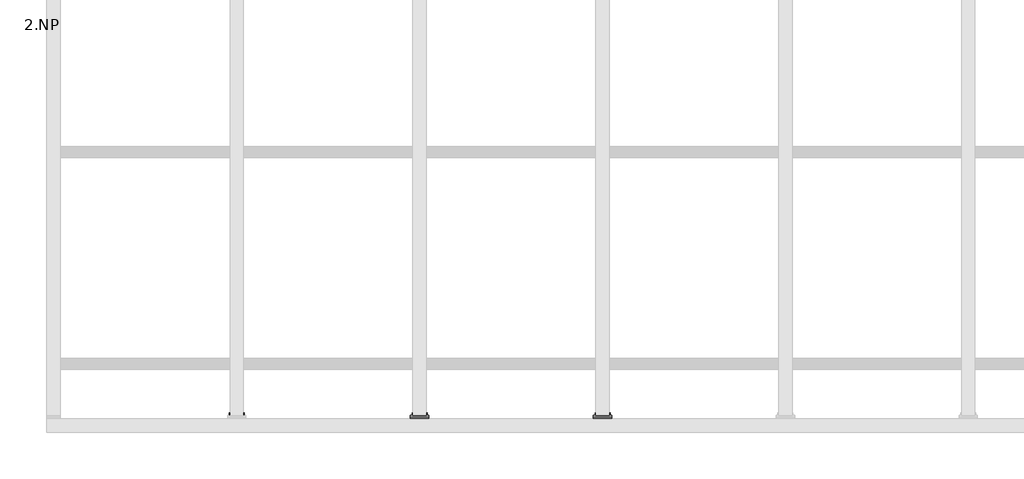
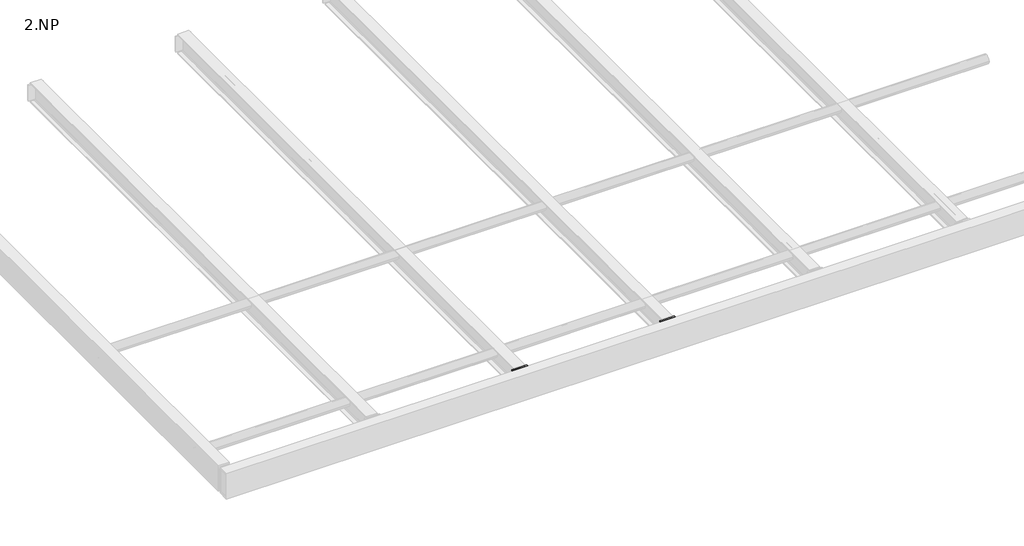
# One storey, part 3 of 18: 10 proxies.
"""IFC4 building model written with IfcOpenShell, lengths in millimetres."""

from ifc_helpers import new_model, si_unit, point, frame, frame_2d, origin, place, context, project, spatial, polyline, circle_curve, trimmed, segment, composite_curve, outline, extrude, element, save

model = new_model("IFC4")

# Units and contexts
model_context = context("Model", 3, world=origin())
ifc_project = project(units=[si_unit("LENGTHUNIT", "METRE", prefix="MILLI")], contexts=[model_context])

# Site, building, storey
site = spatial("IfcSite", under=ifc_project)
building = spatial("IfcBuilding", under=site)
storey = spatial("IfcBuildingStorey", under=building, Name="2.NP", Elevation=3000.0)

# Proxies
placement = place(None, origin())
element("IfcBuildingElementProxy", 1, Name="PLECH", ObjectType="PLECH", at=placement, inside=storey, context=model_context, shape_type="SweptSolid", body=[
    extrude(outline(polyline([(3000.0, -180.0), (3100.0, -180.0), (3100.0, -190.0), (3000.0, -190.0), (3000.0, -180.0)])), frame((0.0, 0.0, 3166.5), z_axis=(0.0, 0.0, 1.0), x_axis=(1.0, 0.0, 0.0)), (0.0, 0.0, 1.0), 127.0),
])
element("IfcBuildingElementProxy", 2, Name="PLECH", ObjectType="PLECH", at=placement, inside=storey, context=model_context, shape_type="SweptSolid", body=[
    extrude(outline(polyline([(2000.0, -180.0), (2100.0, -180.0), (2100.0, -190.0), (2000.0, -190.0), (2000.0, -180.0)])), frame((0.0, 0.0, 3166.5), z_axis=(0.0, 0.0, 1.0), x_axis=(1.0, 0.0, 0.0)), (0.0, 0.0, 1.0), 127.0),
])
element("IfcBuildingElementProxy", 3, Name="PLECH", ObjectType="PLECH", at=placement, inside=storey, context=model_context, shape_type="SweptSolid", body=[
    extrude(outline(polyline([(3000.0, -190.0), (3100.0, -190.0), (3100.0, -200.0), (3000.0, -200.0), (3000.0, -190.0)])), frame((0.0, 0.0, 3127.5), z_axis=(0.0, 0.0, 1.0), x_axis=(1.0, 0.0, 0.0)), (0.0, 0.0, 1.0), 166.0000153),
])
element("IfcBuildingElementProxy", 4, Name="PLECH", ObjectType="PLECH", at=placement, inside=storey, context=model_context, shape_type="SweptSolid", body=[
    extrude(outline(composite_curve([segment(polyline([(-200.0, 3289.5), (-200.0, 3130.5), (-249.5, 3130.5)]), True, "CONTINUOUS"), segment(trimmed(circle_curve(frame_2d((-269.5, 3130.5)), 20.0), [point((-249.5, 3130.5))], [point((-269.5, 3150.5))], True, "CARTESIAN"), True, "CONTINUOUS"), segment(polyline([(-269.5, 3150.5), (-269.5, 3269.5)]), True, "CONTINUOUS"), segment(trimmed(circle_curve(frame_2d((-269.5, 3289.5)), 20.0), [point((-269.5, 3269.5))], [point((-249.5, 3289.5))], True, "CARTESIAN"), True, "CONTINUOUS"), segment(polyline([(-249.5, 3289.5), (-200.0, 3289.5)]), True, "CONTINUOUS")], self_intersect=False)), frame((3046.0, 0.0, 0.0), z_axis=(1.0, 0.0, 0.0), x_axis=(0.0, 1.0, 0.0)), (0.0, 0.0, 1.0), 8.0),
])
element("IfcBuildingElementProxy", 5, Name="PLECH", ObjectType="PLECH", at=placement, inside=storey, context=model_context, shape_type="SweptSolid", body=[
    extrude(outline(polyline([(2000.0, -190.0), (2100.0, -190.0), (2100.0, -200.0), (2000.0, -200.0), (2000.0, -190.0)])), frame((0.0, 0.0, 3127.5), z_axis=(0.0, 0.0, 1.0), x_axis=(1.0, 0.0, 0.0)), (0.0, 0.0, 1.0), 166.0000153),
])
element("IfcBuildingElementProxy", 6, Name="PLECH", ObjectType="PLECH", at=placement, inside=storey, context=model_context, shape_type="SweptSolid", body=[
    extrude(outline(composite_curve([segment(polyline([(-200.0, 3289.5), (-200.0, 3130.5), (-249.5, 3130.5)]), True, "CONTINUOUS"), segment(trimmed(circle_curve(frame_2d((-269.5, 3130.5)), 20.0), [point((-249.5, 3130.5))], [point((-269.5, 3150.5))], True, "CARTESIAN"), True, "CONTINUOUS"), segment(polyline([(-269.5, 3150.5), (-269.5, 3269.5)]), True, "CONTINUOUS"), segment(trimmed(circle_curve(frame_2d((-269.5, 3289.5)), 20.0), [point((-269.5, 3269.5))], [point((-249.5, 3289.5))], True, "CARTESIAN"), True, "CONTINUOUS"), segment(polyline([(-249.5, 3289.5), (-200.0, 3289.5)]), True, "CONTINUOUS")], self_intersect=False)), frame((2046.0, 0.0, 0.0), z_axis=(1.0, 0.0, 0.0), x_axis=(0.0, 1.0, 0.0)), (0.0, 0.0, 1.0), 8.0),
])
element("IfcBuildingElementProxy", 7, Name="PLECH", ObjectType="PLECH", at=placement, inside=storey, context=model_context, shape_type="SweptSolid", body=[
    extrude(outline(composite_curve([segment(polyline([(-200.0, 3289.5), (-200.0, 3130.5), (-249.5, 3130.5)]), True, "CONTINUOUS"), segment(trimmed(circle_curve(frame_2d((-269.5, 3130.5)), 20.0), [point((-249.5, 3130.5))], [point((-269.5, 3150.5))], True, "CARTESIAN"), True, "CONTINUOUS"), segment(polyline([(-269.5, 3150.5), (-269.5, 3269.5)]), True, "CONTINUOUS"), segment(trimmed(circle_curve(frame_2d((-269.5, 3289.5)), 20.0), [point((-269.5, 3269.5))], [point((-249.5, 3289.5))], True, "CARTESIAN"), True, "CONTINUOUS"), segment(polyline([(-249.5, 3289.5), (-200.0, 3289.5)]), True, "CONTINUOUS")], self_intersect=False)), frame((1046.0, 0.0, 0.0), z_axis=(1.0, 0.0, 0.0), x_axis=(0.0, 1.0, 0.0)), (0.0, 0.0, 1.0), 8.0),
])
element("IfcBuildingElementProxy", 8, Name="Bolt assembly", ObjectType="Bolt assembly", at=placement, inside=storey, context=model_context, shape_type="SweptSolid", body=[
    extrude(outline(composite_curve([segment(trimmed(circle_curve(frame_2d((3260.0, 3020.0)), 6.5), [point((3260.0, 3026.5))], [point((3260.0, 3013.5))], False, "CARTESIAN"), True, "CONTINUOUS"), segment(trimmed(circle_curve(frame_2d((3260.0, 3020.0)), 6.5), [point((3260.0, 3013.5))], [point((3260.0, 3026.5))], False, "CARTESIAN"), True, "CONTINUOUS")], self_intersect=False)), frame((0.0, -199.9, 0.0), z_axis=(0.0, 1.0, 0.0), x_axis=(0.0, 0.0, 1.0)), (0.0, 0.0, 1.0), 10.0),
    extrude(outline(polyline([(3260.0, 3030.9696551), (3269.5, 3025.4848276), (3269.5, 3014.5151724), (3260.0, 3009.0303449), (3250.5, 3014.5151724), (3250.5, 3025.4848276), (3260.0, 3030.9696551)])), frame((0.0, -210.0, 0.0), z_axis=(0.0, 1.0, 0.0), x_axis=(0.0, 0.0, 1.0)), (0.0, 0.0, 1.0), 7.5),
    extrude(outline(composite_curve([segment(trimmed(circle_curve(frame_2d((3260.0, 3020.0)), 6.0), [point((3260.0, 3026.0))], [point((3260.0, 3014.0))], False, "CARTESIAN"), True, "CONTINUOUS"), segment(trimmed(circle_curve(frame_2d((3260.0, 3020.0)), 6.0), [point((3260.0, 3014.0))], [point((3260.0, 3026.0))], False, "CARTESIAN"), True, "CONTINUOUS")], self_intersect=False)), frame((0.0, -202.5, 0.0), z_axis=(0.0, 1.0, 0.0), x_axis=(0.0, 0.0, 1.0)), (0.0, 0.0, 1.0), 40.0),
    extrude(outline(composite_curve([segment(trimmed(circle_curve(frame_2d((3260.0, 3020.0)), 12.0), [point((3260.0, 3032.0))], [point((3260.0, 3008.0))], False, "CARTESIAN"), True, "CONTINUOUS"), segment(trimmed(circle_curve(frame_2d((3260.0, 3020.0)), 12.0), [point((3260.0, 3008.0))], [point((3260.0, 3032.0))], False, "CARTESIAN"), True, "CONTINUOUS")], self_intersect=False)), frame((0.0, -202.5, 0.0), z_axis=(0.0, 1.0, 0.0), x_axis=(0.0, 0.0, 1.0)), (0.0, 0.0, 1.0), 2.5),
    extrude(outline(composite_curve([segment(trimmed(circle_curve(frame_2d((3260.0, 3020.0)), 12.0), [point((3260.0, 3032.0))], [point((3260.0, 3008.0))], False, "CARTESIAN"), True, "CONTINUOUS"), segment(trimmed(circle_curve(frame_2d((3260.0, 3020.0)), 12.0), [point((3260.0, 3008.0))], [point((3260.0, 3032.0))], False, "CARTESIAN"), True, "CONTINUOUS")], self_intersect=False)), frame((0.0, -180.0, 0.0), z_axis=(0.0, 1.0, 0.0), x_axis=(0.0, 0.0, 1.0)), (0.0, 0.0, 1.0), 2.5),
    extrude(outline(polyline([(3260.0, 3030.9696551), (3269.5, 3025.4848276), (3269.5, 3014.5151724), (3260.0, 3009.0303449), (3250.5, 3014.5151724), (3250.5, 3025.4848276), (3260.0, 3030.9696551)])), frame((0.0, -177.5, 0.0), z_axis=(0.0, 1.0, 0.0), x_axis=(0.0, 0.0, 1.0)), (0.0, 0.0, 1.0), 10.0),
    extrude(outline(composite_curve([segment(trimmed(circle_curve(frame_2d((3260.0, 3020.0)), 6.5), [point((3260.0, 3026.5))], [point((3260.0, 3013.5))], False, "CARTESIAN"), True, "CONTINUOUS"), segment(trimmed(circle_curve(frame_2d((3260.0, 3020.0)), 6.5), [point((3260.0, 3013.5))], [point((3260.0, 3026.5))], False, "CARTESIAN"), True, "CONTINUOUS")], self_intersect=False)), frame((0.0, -190.1, 0.0), z_axis=(0.0, 1.0, 0.0), x_axis=(0.0, 0.0, 1.0)), (0.0, 0.0, 1.0), 10.1),
    extrude(outline(composite_curve([segment(trimmed(circle_curve(frame_2d((3260.0, 3080.0)), 6.5), [point((3260.0, 3086.5))], [point((3260.0, 3073.5))], False, "CARTESIAN"), True, "CONTINUOUS"), segment(trimmed(circle_curve(frame_2d((3260.0, 3080.0)), 6.5), [point((3260.0, 3073.5))], [point((3260.0, 3086.5))], False, "CARTESIAN"), True, "CONTINUOUS")], self_intersect=False)), frame((0.0, -199.9, 0.0), z_axis=(0.0, 1.0, 0.0), x_axis=(0.0, 0.0, 1.0)), (0.0, 0.0, 1.0), 10.0),
    extrude(outline(polyline([(3260.0, 3090.9696551), (3269.5, 3085.4848276), (3269.5, 3074.5151724), (3260.0, 3069.0303449), (3250.5, 3074.5151724), (3250.5, 3085.4848276), (3260.0, 3090.9696551)])), frame((0.0, -210.0, 0.0), z_axis=(0.0, 1.0, 0.0), x_axis=(0.0, 0.0, 1.0)), (0.0, 0.0, 1.0), 7.5),
    extrude(outline(composite_curve([segment(trimmed(circle_curve(frame_2d((3260.0, 3080.0)), 6.0), [point((3260.0, 3086.0))], [point((3260.0, 3074.0))], False, "CARTESIAN"), True, "CONTINUOUS"), segment(trimmed(circle_curve(frame_2d((3260.0, 3080.0)), 6.0), [point((3260.0, 3074.0))], [point((3260.0, 3086.0))], False, "CARTESIAN"), True, "CONTINUOUS")], self_intersect=False)), frame((0.0, -202.5, 0.0), z_axis=(0.0, 1.0, 0.0), x_axis=(0.0, 0.0, 1.0)), (0.0, 0.0, 1.0), 40.0),
    extrude(outline(composite_curve([segment(trimmed(circle_curve(frame_2d((3260.0, 3080.0)), 12.0), [point((3260.0, 3092.0))], [point((3260.0, 3068.0))], False, "CARTESIAN"), True, "CONTINUOUS"), segment(trimmed(circle_curve(frame_2d((3260.0, 3080.0)), 12.0), [point((3260.0, 3068.0))], [point((3260.0, 3092.0))], False, "CARTESIAN"), True, "CONTINUOUS")], self_intersect=False)), frame((0.0, -202.5, 0.0), z_axis=(0.0, 1.0, 0.0), x_axis=(0.0, 0.0, 1.0)), (0.0, 0.0, 1.0), 2.5),
    extrude(outline(composite_curve([segment(trimmed(circle_curve(frame_2d((3260.0, 3080.0)), 12.0), [point((3260.0, 3092.0))], [point((3260.0, 3068.0))], False, "CARTESIAN"), True, "CONTINUOUS"), segment(trimmed(circle_curve(frame_2d((3260.0, 3080.0)), 12.0), [point((3260.0, 3068.0))], [point((3260.0, 3092.0))], False, "CARTESIAN"), True, "CONTINUOUS")], self_intersect=False)), frame((0.0, -180.0, 0.0), z_axis=(0.0, 1.0, 0.0), x_axis=(0.0, 0.0, 1.0)), (0.0, 0.0, 1.0), 2.5),
    extrude(outline(polyline([(3260.0, 3090.9696551), (3269.5, 3085.4848276), (3269.5, 3074.5151724), (3260.0, 3069.0303449), (3250.5, 3074.5151724), (3250.5, 3085.4848276), (3260.0, 3090.9696551)])), frame((0.0, -177.5, 0.0), z_axis=(0.0, 1.0, 0.0), x_axis=(0.0, 0.0, 1.0)), (0.0, 0.0, 1.0), 10.0),
    extrude(outline(composite_curve([segment(trimmed(circle_curve(frame_2d((3260.0, 3080.0)), 6.5), [point((3260.0, 3086.5))], [point((3260.0, 3073.5))], False, "CARTESIAN"), True, "CONTINUOUS"), segment(trimmed(circle_curve(frame_2d((3260.0, 3080.0)), 6.5), [point((3260.0, 3073.5))], [point((3260.0, 3086.5))], False, "CARTESIAN"), True, "CONTINUOUS")], self_intersect=False)), frame((0.0, -190.1, 0.0), z_axis=(0.0, 1.0, 0.0), x_axis=(0.0, 0.0, 1.0)), (0.0, 0.0, 1.0), 10.1),
    extrude(outline(composite_curve([segment(trimmed(circle_curve(frame_2d((3200.0, 3020.0)), 6.5), [point((3200.0, 3026.5))], [point((3200.0, 3013.5))], False, "CARTESIAN"), True, "CONTINUOUS"), segment(trimmed(circle_curve(frame_2d((3200.0, 3020.0)), 6.5), [point((3200.0, 3013.5))], [point((3200.0, 3026.5))], False, "CARTESIAN"), True, "CONTINUOUS")], self_intersect=False)), frame((0.0, -199.9, 0.0), z_axis=(0.0, 1.0, 0.0), x_axis=(0.0, 0.0, 1.0)), (0.0, 0.0, 1.0), 10.0),
    extrude(outline(polyline([(3200.0, 3030.9696551), (3209.5, 3025.4848276), (3209.5, 3014.5151724), (3200.0, 3009.0303449), (3190.5, 3014.5151724), (3190.5, 3025.4848276), (3200.0, 3030.9696551)])), frame((0.0, -210.0, 0.0), z_axis=(0.0, 1.0, 0.0), x_axis=(0.0, 0.0, 1.0)), (0.0, 0.0, 1.0), 7.5),
    extrude(outline(composite_curve([segment(trimmed(circle_curve(frame_2d((3200.0, 3020.0)), 6.0), [point((3200.0, 3026.0))], [point((3200.0, 3014.0))], False, "CARTESIAN"), True, "CONTINUOUS"), segment(trimmed(circle_curve(frame_2d((3200.0, 3020.0)), 6.0), [point((3200.0, 3014.0))], [point((3200.0, 3026.0))], False, "CARTESIAN"), True, "CONTINUOUS")], self_intersect=False)), frame((0.0, -202.5, 0.0), z_axis=(0.0, 1.0, 0.0), x_axis=(0.0, 0.0, 1.0)), (0.0, 0.0, 1.0), 40.0),
    extrude(outline(composite_curve([segment(trimmed(circle_curve(frame_2d((3200.0, 3020.0)), 12.0), [point((3200.0, 3032.0))], [point((3200.0, 3008.0))], False, "CARTESIAN"), True, "CONTINUOUS"), segment(trimmed(circle_curve(frame_2d((3200.0, 3020.0)), 12.0), [point((3200.0, 3008.0))], [point((3200.0, 3032.0))], False, "CARTESIAN"), True, "CONTINUOUS")], self_intersect=False)), frame((0.0, -202.5, 0.0), z_axis=(0.0, 1.0, 0.0), x_axis=(0.0, 0.0, 1.0)), (0.0, 0.0, 1.0), 2.5),
    extrude(outline(composite_curve([segment(trimmed(circle_curve(frame_2d((3200.0, 3020.0)), 12.0), [point((3200.0, 3032.0))], [point((3200.0, 3008.0))], False, "CARTESIAN"), True, "CONTINUOUS"), segment(trimmed(circle_curve(frame_2d((3200.0, 3020.0)), 12.0), [point((3200.0, 3008.0))], [point((3200.0, 3032.0))], False, "CARTESIAN"), True, "CONTINUOUS")], self_intersect=False)), frame((0.0, -180.0, 0.0), z_axis=(0.0, 1.0, 0.0), x_axis=(0.0, 0.0, 1.0)), (0.0, 0.0, 1.0), 2.5),
    extrude(outline(polyline([(3200.0, 3030.9696551), (3209.5, 3025.4848276), (3209.5, 3014.5151724), (3200.0, 3009.0303449), (3190.5, 3014.5151724), (3190.5, 3025.4848276), (3200.0, 3030.9696551)])), frame((0.0, -177.5, 0.0), z_axis=(0.0, 1.0, 0.0), x_axis=(0.0, 0.0, 1.0)), (0.0, 0.0, 1.0), 10.0),
    extrude(outline(composite_curve([segment(trimmed(circle_curve(frame_2d((3200.0, 3020.0)), 6.5), [point((3200.0, 3026.5))], [point((3200.0, 3013.5))], False, "CARTESIAN"), True, "CONTINUOUS"), segment(trimmed(circle_curve(frame_2d((3200.0, 3020.0)), 6.5), [point((3200.0, 3013.5))], [point((3200.0, 3026.5))], False, "CARTESIAN"), True, "CONTINUOUS")], self_intersect=False)), frame((0.0, -190.1, 0.0), z_axis=(0.0, 1.0, 0.0), x_axis=(0.0, 0.0, 1.0)), (0.0, 0.0, 1.0), 10.1),
    extrude(outline(composite_curve([segment(trimmed(circle_curve(frame_2d((3200.0, 3080.0)), 6.5), [point((3200.0, 3086.5))], [point((3200.0, 3073.5))], False, "CARTESIAN"), True, "CONTINUOUS"), segment(trimmed(circle_curve(frame_2d((3200.0, 3080.0)), 6.5), [point((3200.0, 3073.5))], [point((3200.0, 3086.5))], False, "CARTESIAN"), True, "CONTINUOUS")], self_intersect=False)), frame((0.0, -199.9, 0.0), z_axis=(0.0, 1.0, 0.0), x_axis=(0.0, 0.0, 1.0)), (0.0, 0.0, 1.0), 10.0),
    extrude(outline(polyline([(3200.0, 3090.9696551), (3209.5, 3085.4848276), (3209.5, 3074.5151724), (3200.0, 3069.0303449), (3190.5, 3074.5151724), (3190.5, 3085.4848276), (3200.0, 3090.9696551)])), frame((0.0, -210.0, 0.0), z_axis=(0.0, 1.0, 0.0), x_axis=(0.0, 0.0, 1.0)), (0.0, 0.0, 1.0), 7.5),
    extrude(outline(composite_curve([segment(trimmed(circle_curve(frame_2d((3200.0, 3080.0)), 6.0), [point((3200.0, 3086.0))], [point((3200.0, 3074.0))], False, "CARTESIAN"), True, "CONTINUOUS"), segment(trimmed(circle_curve(frame_2d((3200.0, 3080.0)), 6.0), [point((3200.0, 3074.0))], [point((3200.0, 3086.0))], False, "CARTESIAN"), True, "CONTINUOUS")], self_intersect=False)), frame((0.0, -202.5, 0.0), z_axis=(0.0, 1.0, 0.0), x_axis=(0.0, 0.0, 1.0)), (0.0, 0.0, 1.0), 40.0),
    extrude(outline(composite_curve([segment(trimmed(circle_curve(frame_2d((3200.0, 3080.0)), 12.0), [point((3200.0, 3092.0))], [point((3200.0, 3068.0))], False, "CARTESIAN"), True, "CONTINUOUS"), segment(trimmed(circle_curve(frame_2d((3200.0, 3080.0)), 12.0), [point((3200.0, 3068.0))], [point((3200.0, 3092.0))], False, "CARTESIAN"), True, "CONTINUOUS")], self_intersect=False)), frame((0.0, -202.5, 0.0), z_axis=(0.0, 1.0, 0.0), x_axis=(0.0, 0.0, 1.0)), (0.0, 0.0, 1.0), 2.5),
    extrude(outline(composite_curve([segment(trimmed(circle_curve(frame_2d((3200.0, 3080.0)), 12.0), [point((3200.0, 3092.0))], [point((3200.0, 3068.0))], False, "CARTESIAN"), True, "CONTINUOUS"), segment(trimmed(circle_curve(frame_2d((3200.0, 3080.0)), 12.0), [point((3200.0, 3068.0))], [point((3200.0, 3092.0))], False, "CARTESIAN"), True, "CONTINUOUS")], self_intersect=False)), frame((0.0, -180.0, 0.0), z_axis=(0.0, 1.0, 0.0), x_axis=(0.0, 0.0, 1.0)), (0.0, 0.0, 1.0), 2.5),
    extrude(outline(polyline([(3200.0, 3090.9696551), (3209.5, 3085.4848276), (3209.5, 3074.5151724), (3200.0, 3069.0303449), (3190.5, 3074.5151724), (3190.5, 3085.4848276), (3200.0, 3090.9696551)])), frame((0.0, -177.5, 0.0), z_axis=(0.0, 1.0, 0.0), x_axis=(0.0, 0.0, 1.0)), (0.0, 0.0, 1.0), 10.0),
    extrude(outline(composite_curve([segment(trimmed(circle_curve(frame_2d((3200.0, 3080.0)), 6.5), [point((3200.0, 3086.5))], [point((3200.0, 3073.5))], False, "CARTESIAN"), True, "CONTINUOUS"), segment(trimmed(circle_curve(frame_2d((3200.0, 3080.0)), 6.5), [point((3200.0, 3073.5))], [point((3200.0, 3086.5))], False, "CARTESIAN"), True, "CONTINUOUS")], self_intersect=False)), frame((0.0, -190.1, 0.0), z_axis=(0.0, 1.0, 0.0), x_axis=(0.0, 0.0, 1.0)), (0.0, 0.0, 1.0), 10.1),
])
element("IfcBuildingElementProxy", 9, Name="Bolt assembly", ObjectType="Bolt assembly", at=placement, inside=storey, context=model_context, shape_type="SweptSolid", body=[
    extrude(outline(composite_curve([segment(trimmed(circle_curve(frame_2d((3260.0, 2020.0)), 6.5), [point((3260.0, 2026.5))], [point((3260.0, 2013.5))], False, "CARTESIAN"), True, "CONTINUOUS"), segment(trimmed(circle_curve(frame_2d((3260.0, 2020.0)), 6.5), [point((3260.0, 2013.5))], [point((3260.0, 2026.5))], False, "CARTESIAN"), True, "CONTINUOUS")], self_intersect=False)), frame((0.0, -199.9, 0.0), z_axis=(0.0, 1.0, 0.0), x_axis=(0.0, 0.0, 1.0)), (0.0, 0.0, 1.0), 10.0),
    extrude(outline(polyline([(3260.0, 2030.9696551), (3269.5, 2025.4848276), (3269.5, 2014.5151724), (3260.0, 2009.0303449), (3250.5, 2014.5151724), (3250.5, 2025.4848276), (3260.0, 2030.9696551)])), frame((0.0, -210.0, 0.0), z_axis=(0.0, 1.0, 0.0), x_axis=(0.0, 0.0, 1.0)), (0.0, 0.0, 1.0), 7.5),
    extrude(outline(composite_curve([segment(trimmed(circle_curve(frame_2d((3260.0, 2020.0)), 6.0), [point((3260.0, 2026.0))], [point((3260.0, 2014.0))], False, "CARTESIAN"), True, "CONTINUOUS"), segment(trimmed(circle_curve(frame_2d((3260.0, 2020.0)), 6.0), [point((3260.0, 2014.0))], [point((3260.0, 2026.0))], False, "CARTESIAN"), True, "CONTINUOUS")], self_intersect=False)), frame((0.0, -202.5, 0.0), z_axis=(0.0, 1.0, 0.0), x_axis=(0.0, 0.0, 1.0)), (0.0, 0.0, 1.0), 40.0),
    extrude(outline(composite_curve([segment(trimmed(circle_curve(frame_2d((3260.0, 2020.0)), 12.0), [point((3260.0, 2032.0))], [point((3260.0, 2008.0))], False, "CARTESIAN"), True, "CONTINUOUS"), segment(trimmed(circle_curve(frame_2d((3260.0, 2020.0)), 12.0), [point((3260.0, 2008.0))], [point((3260.0, 2032.0))], False, "CARTESIAN"), True, "CONTINUOUS")], self_intersect=False)), frame((0.0, -202.5, 0.0), z_axis=(0.0, 1.0, 0.0), x_axis=(0.0, 0.0, 1.0)), (0.0, 0.0, 1.0), 2.5),
    extrude(outline(composite_curve([segment(trimmed(circle_curve(frame_2d((3260.0, 2020.0)), 12.0), [point((3260.0, 2032.0))], [point((3260.0, 2008.0))], False, "CARTESIAN"), True, "CONTINUOUS"), segment(trimmed(circle_curve(frame_2d((3260.0, 2020.0)), 12.0), [point((3260.0, 2008.0))], [point((3260.0, 2032.0))], False, "CARTESIAN"), True, "CONTINUOUS")], self_intersect=False)), frame((0.0, -180.0, 0.0), z_axis=(0.0, 1.0, 0.0), x_axis=(0.0, 0.0, 1.0)), (0.0, 0.0, 1.0), 2.5),
    extrude(outline(polyline([(3260.0, 2030.9696551), (3269.5, 2025.4848276), (3269.5, 2014.5151724), (3260.0, 2009.0303449), (3250.5, 2014.5151724), (3250.5, 2025.4848276), (3260.0, 2030.9696551)])), frame((0.0, -177.5, 0.0), z_axis=(0.0, 1.0, 0.0), x_axis=(0.0, 0.0, 1.0)), (0.0, 0.0, 1.0), 10.0),
    extrude(outline(composite_curve([segment(trimmed(circle_curve(frame_2d((3260.0, 2020.0)), 6.5), [point((3260.0, 2026.5))], [point((3260.0, 2013.5))], False, "CARTESIAN"), True, "CONTINUOUS"), segment(trimmed(circle_curve(frame_2d((3260.0, 2020.0)), 6.5), [point((3260.0, 2013.5))], [point((3260.0, 2026.5))], False, "CARTESIAN"), True, "CONTINUOUS")], self_intersect=False)), frame((0.0, -190.1, 0.0), z_axis=(0.0, 1.0, 0.0), x_axis=(0.0, 0.0, 1.0)), (0.0, 0.0, 1.0), 10.1),
    extrude(outline(composite_curve([segment(trimmed(circle_curve(frame_2d((3260.0, 2080.0)), 6.5), [point((3260.0, 2086.5))], [point((3260.0, 2073.5))], False, "CARTESIAN"), True, "CONTINUOUS"), segment(trimmed(circle_curve(frame_2d((3260.0, 2080.0)), 6.5), [point((3260.0, 2073.5))], [point((3260.0, 2086.5))], False, "CARTESIAN"), True, "CONTINUOUS")], self_intersect=False)), frame((0.0, -199.9, 0.0), z_axis=(0.0, 1.0, 0.0), x_axis=(0.0, 0.0, 1.0)), (0.0, 0.0, 1.0), 10.0),
    extrude(outline(polyline([(3260.0, 2090.9696551), (3269.5, 2085.4848276), (3269.5, 2074.5151724), (3260.0, 2069.0303449), (3250.5, 2074.5151724), (3250.5, 2085.4848276), (3260.0, 2090.9696551)])), frame((0.0, -210.0, 0.0), z_axis=(0.0, 1.0, 0.0), x_axis=(0.0, 0.0, 1.0)), (0.0, 0.0, 1.0), 7.5),
    extrude(outline(composite_curve([segment(trimmed(circle_curve(frame_2d((3260.0, 2080.0)), 6.0), [point((3260.0, 2086.0))], [point((3260.0, 2074.0))], False, "CARTESIAN"), True, "CONTINUOUS"), segment(trimmed(circle_curve(frame_2d((3260.0, 2080.0)), 6.0), [point((3260.0, 2074.0))], [point((3260.0, 2086.0))], False, "CARTESIAN"), True, "CONTINUOUS")], self_intersect=False)), frame((0.0, -202.5, 0.0), z_axis=(0.0, 1.0, 0.0), x_axis=(0.0, 0.0, 1.0)), (0.0, 0.0, 1.0), 40.0),
    extrude(outline(composite_curve([segment(trimmed(circle_curve(frame_2d((3260.0, 2080.0)), 12.0), [point((3260.0, 2092.0))], [point((3260.0, 2068.0))], False, "CARTESIAN"), True, "CONTINUOUS"), segment(trimmed(circle_curve(frame_2d((3260.0, 2080.0)), 12.0), [point((3260.0, 2068.0))], [point((3260.0, 2092.0))], False, "CARTESIAN"), True, "CONTINUOUS")], self_intersect=False)), frame((0.0, -202.5, 0.0), z_axis=(0.0, 1.0, 0.0), x_axis=(0.0, 0.0, 1.0)), (0.0, 0.0, 1.0), 2.5),
    extrude(outline(composite_curve([segment(trimmed(circle_curve(frame_2d((3260.0, 2080.0)), 12.0), [point((3260.0, 2092.0))], [point((3260.0, 2068.0))], False, "CARTESIAN"), True, "CONTINUOUS"), segment(trimmed(circle_curve(frame_2d((3260.0, 2080.0)), 12.0), [point((3260.0, 2068.0))], [point((3260.0, 2092.0))], False, "CARTESIAN"), True, "CONTINUOUS")], self_intersect=False)), frame((0.0, -180.0, 0.0), z_axis=(0.0, 1.0, 0.0), x_axis=(0.0, 0.0, 1.0)), (0.0, 0.0, 1.0), 2.5),
    extrude(outline(polyline([(3260.0, 2090.9696551), (3269.5, 2085.4848276), (3269.5, 2074.5151724), (3260.0, 2069.0303449), (3250.5, 2074.5151724), (3250.5, 2085.4848276), (3260.0, 2090.9696551)])), frame((0.0, -177.5, 0.0), z_axis=(0.0, 1.0, 0.0), x_axis=(0.0, 0.0, 1.0)), (0.0, 0.0, 1.0), 10.0),
    extrude(outline(composite_curve([segment(trimmed(circle_curve(frame_2d((3260.0, 2080.0)), 6.5), [point((3260.0, 2086.5))], [point((3260.0, 2073.5))], False, "CARTESIAN"), True, "CONTINUOUS"), segment(trimmed(circle_curve(frame_2d((3260.0, 2080.0)), 6.5), [point((3260.0, 2073.5))], [point((3260.0, 2086.5))], False, "CARTESIAN"), True, "CONTINUOUS")], self_intersect=False)), frame((0.0, -190.1, 0.0), z_axis=(0.0, 1.0, 0.0), x_axis=(0.0, 0.0, 1.0)), (0.0, 0.0, 1.0), 10.1),
    extrude(outline(composite_curve([segment(trimmed(circle_curve(frame_2d((3200.0, 2020.0)), 6.5), [point((3200.0, 2026.5))], [point((3200.0, 2013.5))], False, "CARTESIAN"), True, "CONTINUOUS"), segment(trimmed(circle_curve(frame_2d((3200.0, 2020.0)), 6.5), [point((3200.0, 2013.5))], [point((3200.0, 2026.5))], False, "CARTESIAN"), True, "CONTINUOUS")], self_intersect=False)), frame((0.0, -199.9, 0.0), z_axis=(0.0, 1.0, 0.0), x_axis=(0.0, 0.0, 1.0)), (0.0, 0.0, 1.0), 10.0),
    extrude(outline(polyline([(3200.0, 2030.9696551), (3209.5, 2025.4848276), (3209.5, 2014.5151724), (3200.0, 2009.0303449), (3190.5, 2014.5151724), (3190.5, 2025.4848276), (3200.0, 2030.9696551)])), frame((0.0, -210.0, 0.0), z_axis=(0.0, 1.0, 0.0), x_axis=(0.0, 0.0, 1.0)), (0.0, 0.0, 1.0), 7.5),
    extrude(outline(composite_curve([segment(trimmed(circle_curve(frame_2d((3200.0, 2020.0)), 6.0), [point((3200.0, 2026.0))], [point((3200.0, 2014.0))], False, "CARTESIAN"), True, "CONTINUOUS"), segment(trimmed(circle_curve(frame_2d((3200.0, 2020.0)), 6.0), [point((3200.0, 2014.0))], [point((3200.0, 2026.0))], False, "CARTESIAN"), True, "CONTINUOUS")], self_intersect=False)), frame((0.0, -202.5, 0.0), z_axis=(0.0, 1.0, 0.0), x_axis=(0.0, 0.0, 1.0)), (0.0, 0.0, 1.0), 40.0),
    extrude(outline(composite_curve([segment(trimmed(circle_curve(frame_2d((3200.0, 2020.0)), 12.0), [point((3200.0, 2032.0))], [point((3200.0, 2008.0))], False, "CARTESIAN"), True, "CONTINUOUS"), segment(trimmed(circle_curve(frame_2d((3200.0, 2020.0)), 12.0), [point((3200.0, 2008.0))], [point((3200.0, 2032.0))], False, "CARTESIAN"), True, "CONTINUOUS")], self_intersect=False)), frame((0.0, -202.5, 0.0), z_axis=(0.0, 1.0, 0.0), x_axis=(0.0, 0.0, 1.0)), (0.0, 0.0, 1.0), 2.5),
    extrude(outline(composite_curve([segment(trimmed(circle_curve(frame_2d((3200.0, 2020.0)), 12.0), [point((3200.0, 2032.0))], [point((3200.0, 2008.0))], False, "CARTESIAN"), True, "CONTINUOUS"), segment(trimmed(circle_curve(frame_2d((3200.0, 2020.0)), 12.0), [point((3200.0, 2008.0))], [point((3200.0, 2032.0))], False, "CARTESIAN"), True, "CONTINUOUS")], self_intersect=False)), frame((0.0, -180.0, 0.0), z_axis=(0.0, 1.0, 0.0), x_axis=(0.0, 0.0, 1.0)), (0.0, 0.0, 1.0), 2.5),
    extrude(outline(polyline([(3200.0, 2030.9696551), (3209.5, 2025.4848276), (3209.5, 2014.5151724), (3200.0, 2009.0303449), (3190.5, 2014.5151724), (3190.5, 2025.4848276), (3200.0, 2030.9696551)])), frame((0.0, -177.5, 0.0), z_axis=(0.0, 1.0, 0.0), x_axis=(0.0, 0.0, 1.0)), (0.0, 0.0, 1.0), 10.0),
    extrude(outline(composite_curve([segment(trimmed(circle_curve(frame_2d((3200.0, 2020.0)), 6.5), [point((3200.0, 2026.5))], [point((3200.0, 2013.5))], False, "CARTESIAN"), True, "CONTINUOUS"), segment(trimmed(circle_curve(frame_2d((3200.0, 2020.0)), 6.5), [point((3200.0, 2013.5))], [point((3200.0, 2026.5))], False, "CARTESIAN"), True, "CONTINUOUS")], self_intersect=False)), frame((0.0, -190.1, 0.0), z_axis=(0.0, 1.0, 0.0), x_axis=(0.0, 0.0, 1.0)), (0.0, 0.0, 1.0), 10.1),
    extrude(outline(composite_curve([segment(trimmed(circle_curve(frame_2d((3200.0, 2080.0)), 6.5), [point((3200.0, 2086.5))], [point((3200.0, 2073.5))], False, "CARTESIAN"), True, "CONTINUOUS"), segment(trimmed(circle_curve(frame_2d((3200.0, 2080.0)), 6.5), [point((3200.0, 2073.5))], [point((3200.0, 2086.5))], False, "CARTESIAN"), True, "CONTINUOUS")], self_intersect=False)), frame((0.0, -199.9, 0.0), z_axis=(0.0, 1.0, 0.0), x_axis=(0.0, 0.0, 1.0)), (0.0, 0.0, 1.0), 10.0),
    extrude(outline(polyline([(3200.0, 2090.9696551), (3209.5, 2085.4848276), (3209.5, 2074.5151724), (3200.0, 2069.0303449), (3190.5, 2074.5151724), (3190.5, 2085.4848276), (3200.0, 2090.9696551)])), frame((0.0, -210.0, 0.0), z_axis=(0.0, 1.0, 0.0), x_axis=(0.0, 0.0, 1.0)), (0.0, 0.0, 1.0), 7.5),
    extrude(outline(composite_curve([segment(trimmed(circle_curve(frame_2d((3200.0, 2080.0)), 6.0), [point((3200.0, 2086.0))], [point((3200.0, 2074.0))], False, "CARTESIAN"), True, "CONTINUOUS"), segment(trimmed(circle_curve(frame_2d((3200.0, 2080.0)), 6.0), [point((3200.0, 2074.0))], [point((3200.0, 2086.0))], False, "CARTESIAN"), True, "CONTINUOUS")], self_intersect=False)), frame((0.0, -202.5, 0.0), z_axis=(0.0, 1.0, 0.0), x_axis=(0.0, 0.0, 1.0)), (0.0, 0.0, 1.0), 40.0),
    extrude(outline(composite_curve([segment(trimmed(circle_curve(frame_2d((3200.0, 2080.0)), 12.0), [point((3200.0, 2092.0))], [point((3200.0, 2068.0))], False, "CARTESIAN"), True, "CONTINUOUS"), segment(trimmed(circle_curve(frame_2d((3200.0, 2080.0)), 12.0), [point((3200.0, 2068.0))], [point((3200.0, 2092.0))], False, "CARTESIAN"), True, "CONTINUOUS")], self_intersect=False)), frame((0.0, -202.5, 0.0), z_axis=(0.0, 1.0, 0.0), x_axis=(0.0, 0.0, 1.0)), (0.0, 0.0, 1.0), 2.5),
    extrude(outline(composite_curve([segment(trimmed(circle_curve(frame_2d((3200.0, 2080.0)), 12.0), [point((3200.0, 2092.0))], [point((3200.0, 2068.0))], False, "CARTESIAN"), True, "CONTINUOUS"), segment(trimmed(circle_curve(frame_2d((3200.0, 2080.0)), 12.0), [point((3200.0, 2068.0))], [point((3200.0, 2092.0))], False, "CARTESIAN"), True, "CONTINUOUS")], self_intersect=False)), frame((0.0, -180.0, 0.0), z_axis=(0.0, 1.0, 0.0), x_axis=(0.0, 0.0, 1.0)), (0.0, 0.0, 1.0), 2.5),
    extrude(outline(polyline([(3200.0, 2090.9696551), (3209.5, 2085.4848276), (3209.5, 2074.5151724), (3200.0, 2069.0303449), (3190.5, 2074.5151724), (3190.5, 2085.4848276), (3200.0, 2090.9696551)])), frame((0.0, -177.5, 0.0), z_axis=(0.0, 1.0, 0.0), x_axis=(0.0, 0.0, 1.0)), (0.0, 0.0, 1.0), 10.0),
    extrude(outline(composite_curve([segment(trimmed(circle_curve(frame_2d((3200.0, 2080.0)), 6.5), [point((3200.0, 2086.5))], [point((3200.0, 2073.5))], False, "CARTESIAN"), True, "CONTINUOUS"), segment(trimmed(circle_curve(frame_2d((3200.0, 2080.0)), 6.5), [point((3200.0, 2073.5))], [point((3200.0, 2086.5))], False, "CARTESIAN"), True, "CONTINUOUS")], self_intersect=False)), frame((0.0, -190.1, 0.0), z_axis=(0.0, 1.0, 0.0), x_axis=(0.0, 0.0, 1.0)), (0.0, 0.0, 1.0), 10.1),
])
element("IfcBuildingElementProxy", 10, Name="Bolt assembly", ObjectType="Bolt assembly", at=placement, inside=storey, context=model_context, shape_type="SweptSolid", body=[
    extrude(outline(composite_curve([segment(trimmed(circle_curve(frame_2d((3260.0, 1020.0)), 6.5), [point((3260.0, 1026.5))], [point((3260.0, 1013.5))], False, "CARTESIAN"), True, "CONTINUOUS"), segment(trimmed(circle_curve(frame_2d((3260.0, 1020.0)), 6.5), [point((3260.0, 1013.5))], [point((3260.0, 1026.5))], False, "CARTESIAN"), True, "CONTINUOUS")], self_intersect=False)), frame((0.0, -199.9, 0.0), z_axis=(0.0, 1.0, 0.0), x_axis=(0.0, 0.0, 1.0)), (0.0, 0.0, 1.0), 10.0),
    extrude(outline(polyline([(3260.0, 1030.9696551), (3269.5, 1025.4848276), (3269.5, 1014.5151724), (3260.0, 1009.0303449), (3250.5, 1014.5151724), (3250.5, 1025.4848276), (3260.0, 1030.9696551)])), frame((0.0, -210.0, 0.0), z_axis=(0.0, 1.0, 0.0), x_axis=(0.0, 0.0, 1.0)), (0.0, 0.0, 1.0), 7.5),
    extrude(outline(composite_curve([segment(trimmed(circle_curve(frame_2d((3260.0, 1020.0)), 6.0), [point((3260.0, 1026.0))], [point((3260.0, 1014.0))], False, "CARTESIAN"), True, "CONTINUOUS"), segment(trimmed(circle_curve(frame_2d((3260.0, 1020.0)), 6.0), [point((3260.0, 1014.0))], [point((3260.0, 1026.0))], False, "CARTESIAN"), True, "CONTINUOUS")], self_intersect=False)), frame((0.0, -202.5, 0.0), z_axis=(0.0, 1.0, 0.0), x_axis=(0.0, 0.0, 1.0)), (0.0, 0.0, 1.0), 40.0),
    extrude(outline(composite_curve([segment(trimmed(circle_curve(frame_2d((3260.0, 1020.0)), 12.0), [point((3260.0, 1032.0))], [point((3260.0, 1008.0))], False, "CARTESIAN"), True, "CONTINUOUS"), segment(trimmed(circle_curve(frame_2d((3260.0, 1020.0)), 12.0), [point((3260.0, 1008.0))], [point((3260.0, 1032.0))], False, "CARTESIAN"), True, "CONTINUOUS")], self_intersect=False)), frame((0.0, -202.5, 0.0), z_axis=(0.0, 1.0, 0.0), x_axis=(0.0, 0.0, 1.0)), (0.0, 0.0, 1.0), 2.5),
    extrude(outline(composite_curve([segment(trimmed(circle_curve(frame_2d((3260.0, 1020.0)), 12.0), [point((3260.0, 1032.0))], [point((3260.0, 1008.0))], False, "CARTESIAN"), True, "CONTINUOUS"), segment(trimmed(circle_curve(frame_2d((3260.0, 1020.0)), 12.0), [point((3260.0, 1008.0))], [point((3260.0, 1032.0))], False, "CARTESIAN"), True, "CONTINUOUS")], self_intersect=False)), frame((0.0, -180.0, 0.0), z_axis=(0.0, 1.0, 0.0), x_axis=(0.0, 0.0, 1.0)), (0.0, 0.0, 1.0), 2.5),
    extrude(outline(polyline([(3260.0, 1030.9696551), (3269.5, 1025.4848276), (3269.5, 1014.5151724), (3260.0, 1009.0303449), (3250.5, 1014.5151724), (3250.5, 1025.4848276), (3260.0, 1030.9696551)])), frame((0.0, -177.5, 0.0), z_axis=(0.0, 1.0, 0.0), x_axis=(0.0, 0.0, 1.0)), (0.0, 0.0, 1.0), 10.0),
    extrude(outline(composite_curve([segment(trimmed(circle_curve(frame_2d((3260.0, 1020.0)), 6.5), [point((3260.0, 1026.5))], [point((3260.0, 1013.5))], False, "CARTESIAN"), True, "CONTINUOUS"), segment(trimmed(circle_curve(frame_2d((3260.0, 1020.0)), 6.5), [point((3260.0, 1013.5))], [point((3260.0, 1026.5))], False, "CARTESIAN"), True, "CONTINUOUS")], self_intersect=False)), frame((0.0, -190.1, 0.0), z_axis=(0.0, 1.0, 0.0), x_axis=(0.0, 0.0, 1.0)), (0.0, 0.0, 1.0), 10.1),
    extrude(outline(composite_curve([segment(trimmed(circle_curve(frame_2d((3260.0, 1080.0)), 6.5), [point((3260.0, 1086.5))], [point((3260.0, 1073.5))], False, "CARTESIAN"), True, "CONTINUOUS"), segment(trimmed(circle_curve(frame_2d((3260.0, 1080.0)), 6.5), [point((3260.0, 1073.5))], [point((3260.0, 1086.5))], False, "CARTESIAN"), True, "CONTINUOUS")], self_intersect=False)), frame((0.0, -199.9, 0.0), z_axis=(0.0, 1.0, 0.0), x_axis=(0.0, 0.0, 1.0)), (0.0, 0.0, 1.0), 10.0),
    extrude(outline(polyline([(3260.0, 1090.9696551), (3269.5, 1085.4848276), (3269.5, 1074.5151724), (3260.0, 1069.0303449), (3250.5, 1074.5151724), (3250.5, 1085.4848276), (3260.0, 1090.9696551)])), frame((0.0, -210.0, 0.0), z_axis=(0.0, 1.0, 0.0), x_axis=(0.0, 0.0, 1.0)), (0.0, 0.0, 1.0), 7.5),
    extrude(outline(composite_curve([segment(trimmed(circle_curve(frame_2d((3260.0, 1080.0)), 6.0), [point((3260.0, 1086.0))], [point((3260.0, 1074.0))], False, "CARTESIAN"), True, "CONTINUOUS"), segment(trimmed(circle_curve(frame_2d((3260.0, 1080.0)), 6.0), [point((3260.0, 1074.0))], [point((3260.0, 1086.0))], False, "CARTESIAN"), True, "CONTINUOUS")], self_intersect=False)), frame((0.0, -202.5, 0.0), z_axis=(0.0, 1.0, 0.0), x_axis=(0.0, 0.0, 1.0)), (0.0, 0.0, 1.0), 40.0),
    extrude(outline(composite_curve([segment(trimmed(circle_curve(frame_2d((3260.0, 1080.0)), 12.0), [point((3260.0, 1092.0))], [point((3260.0, 1068.0))], False, "CARTESIAN"), True, "CONTINUOUS"), segment(trimmed(circle_curve(frame_2d((3260.0, 1080.0)), 12.0), [point((3260.0, 1068.0))], [point((3260.0, 1092.0))], False, "CARTESIAN"), True, "CONTINUOUS")], self_intersect=False)), frame((0.0, -202.5, 0.0), z_axis=(0.0, 1.0, 0.0), x_axis=(0.0, 0.0, 1.0)), (0.0, 0.0, 1.0), 2.5),
    extrude(outline(composite_curve([segment(trimmed(circle_curve(frame_2d((3260.0, 1080.0)), 12.0), [point((3260.0, 1092.0))], [point((3260.0, 1068.0))], False, "CARTESIAN"), True, "CONTINUOUS"), segment(trimmed(circle_curve(frame_2d((3260.0, 1080.0)), 12.0), [point((3260.0, 1068.0))], [point((3260.0, 1092.0))], False, "CARTESIAN"), True, "CONTINUOUS")], self_intersect=False)), frame((0.0, -180.0, 0.0), z_axis=(0.0, 1.0, 0.0), x_axis=(0.0, 0.0, 1.0)), (0.0, 0.0, 1.0), 2.5),
    extrude(outline(polyline([(3260.0, 1090.9696551), (3269.5, 1085.4848276), (3269.5, 1074.5151724), (3260.0, 1069.0303449), (3250.5, 1074.5151724), (3250.5, 1085.4848276), (3260.0, 1090.9696551)])), frame((0.0, -177.5, 0.0), z_axis=(0.0, 1.0, 0.0), x_axis=(0.0, 0.0, 1.0)), (0.0, 0.0, 1.0), 10.0),
    extrude(outline(composite_curve([segment(trimmed(circle_curve(frame_2d((3260.0, 1080.0)), 6.5), [point((3260.0, 1086.5))], [point((3260.0, 1073.5))], False, "CARTESIAN"), True, "CONTINUOUS"), segment(trimmed(circle_curve(frame_2d((3260.0, 1080.0)), 6.5), [point((3260.0, 1073.5))], [point((3260.0, 1086.5))], False, "CARTESIAN"), True, "CONTINUOUS")], self_intersect=False)), frame((0.0, -190.1, 0.0), z_axis=(0.0, 1.0, 0.0), x_axis=(0.0, 0.0, 1.0)), (0.0, 0.0, 1.0), 10.1),
    extrude(outline(composite_curve([segment(trimmed(circle_curve(frame_2d((3200.0, 1020.0)), 6.5), [point((3200.0, 1026.5))], [point((3200.0, 1013.5))], False, "CARTESIAN"), True, "CONTINUOUS"), segment(trimmed(circle_curve(frame_2d((3200.0, 1020.0)), 6.5), [point((3200.0, 1013.5))], [point((3200.0, 1026.5))], False, "CARTESIAN"), True, "CONTINUOUS")], self_intersect=False)), frame((0.0, -199.9, 0.0), z_axis=(0.0, 1.0, 0.0), x_axis=(0.0, 0.0, 1.0)), (0.0, 0.0, 1.0), 10.0),
    extrude(outline(polyline([(3200.0, 1030.9696551), (3209.5, 1025.4848276), (3209.5, 1014.5151724), (3200.0, 1009.0303449), (3190.5, 1014.5151724), (3190.5, 1025.4848276), (3200.0, 1030.9696551)])), frame((0.0, -210.0, 0.0), z_axis=(0.0, 1.0, 0.0), x_axis=(0.0, 0.0, 1.0)), (0.0, 0.0, 1.0), 7.5),
    extrude(outline(composite_curve([segment(trimmed(circle_curve(frame_2d((3200.0, 1020.0)), 6.0), [point((3200.0, 1026.0))], [point((3200.0, 1014.0))], False, "CARTESIAN"), True, "CONTINUOUS"), segment(trimmed(circle_curve(frame_2d((3200.0, 1020.0)), 6.0), [point((3200.0, 1014.0))], [point((3200.0, 1026.0))], False, "CARTESIAN"), True, "CONTINUOUS")], self_intersect=False)), frame((0.0, -202.5, 0.0), z_axis=(0.0, 1.0, 0.0), x_axis=(0.0, 0.0, 1.0)), (0.0, 0.0, 1.0), 40.0),
    extrude(outline(composite_curve([segment(trimmed(circle_curve(frame_2d((3200.0, 1020.0)), 12.0), [point((3200.0, 1032.0))], [point((3200.0, 1008.0))], False, "CARTESIAN"), True, "CONTINUOUS"), segment(trimmed(circle_curve(frame_2d((3200.0, 1020.0)), 12.0), [point((3200.0, 1008.0))], [point((3200.0, 1032.0))], False, "CARTESIAN"), True, "CONTINUOUS")], self_intersect=False)), frame((0.0, -202.5, 0.0), z_axis=(0.0, 1.0, 0.0), x_axis=(0.0, 0.0, 1.0)), (0.0, 0.0, 1.0), 2.5),
    extrude(outline(composite_curve([segment(trimmed(circle_curve(frame_2d((3200.0, 1020.0)), 12.0), [point((3200.0, 1032.0))], [point((3200.0, 1008.0))], False, "CARTESIAN"), True, "CONTINUOUS"), segment(trimmed(circle_curve(frame_2d((3200.0, 1020.0)), 12.0), [point((3200.0, 1008.0))], [point((3200.0, 1032.0))], False, "CARTESIAN"), True, "CONTINUOUS")], self_intersect=False)), frame((0.0, -180.0, 0.0), z_axis=(0.0, 1.0, 0.0), x_axis=(0.0, 0.0, 1.0)), (0.0, 0.0, 1.0), 2.5),
    extrude(outline(polyline([(3200.0, 1030.9696551), (3209.5, 1025.4848276), (3209.5, 1014.5151724), (3200.0, 1009.0303449), (3190.5, 1014.5151724), (3190.5, 1025.4848276), (3200.0, 1030.9696551)])), frame((0.0, -177.5, 0.0), z_axis=(0.0, 1.0, 0.0), x_axis=(0.0, 0.0, 1.0)), (0.0, 0.0, 1.0), 10.0),
    extrude(outline(composite_curve([segment(trimmed(circle_curve(frame_2d((3200.0, 1020.0)), 6.5), [point((3200.0, 1026.5))], [point((3200.0, 1013.5))], False, "CARTESIAN"), True, "CONTINUOUS"), segment(trimmed(circle_curve(frame_2d((3200.0, 1020.0)), 6.5), [point((3200.0, 1013.5))], [point((3200.0, 1026.5))], False, "CARTESIAN"), True, "CONTINUOUS")], self_intersect=False)), frame((0.0, -190.1, 0.0), z_axis=(0.0, 1.0, 0.0), x_axis=(0.0, 0.0, 1.0)), (0.0, 0.0, 1.0), 10.1),
    extrude(outline(composite_curve([segment(trimmed(circle_curve(frame_2d((3200.0, 1080.0)), 6.5), [point((3200.0, 1086.5))], [point((3200.0, 1073.5))], False, "CARTESIAN"), True, "CONTINUOUS"), segment(trimmed(circle_curve(frame_2d((3200.0, 1080.0)), 6.5), [point((3200.0, 1073.5))], [point((3200.0, 1086.5))], False, "CARTESIAN"), True, "CONTINUOUS")], self_intersect=False)), frame((0.0, -199.9, 0.0), z_axis=(0.0, 1.0, 0.0), x_axis=(0.0, 0.0, 1.0)), (0.0, 0.0, 1.0), 10.0),
    extrude(outline(polyline([(3200.0, 1090.9696551), (3209.5, 1085.4848276), (3209.5, 1074.5151724), (3200.0, 1069.0303449), (3190.5, 1074.5151724), (3190.5, 1085.4848276), (3200.0, 1090.9696551)])), frame((0.0, -210.0, 0.0), z_axis=(0.0, 1.0, 0.0), x_axis=(0.0, 0.0, 1.0)), (0.0, 0.0, 1.0), 7.5),
    extrude(outline(composite_curve([segment(trimmed(circle_curve(frame_2d((3200.0, 1080.0)), 6.0), [point((3200.0, 1086.0))], [point((3200.0, 1074.0))], False, "CARTESIAN"), True, "CONTINUOUS"), segment(trimmed(circle_curve(frame_2d((3200.0, 1080.0)), 6.0), [point((3200.0, 1074.0))], [point((3200.0, 1086.0))], False, "CARTESIAN"), True, "CONTINUOUS")], self_intersect=False)), frame((0.0, -202.5, 0.0), z_axis=(0.0, 1.0, 0.0), x_axis=(0.0, 0.0, 1.0)), (0.0, 0.0, 1.0), 40.0),
    extrude(outline(composite_curve([segment(trimmed(circle_curve(frame_2d((3200.0, 1080.0)), 12.0), [point((3200.0, 1092.0))], [point((3200.0, 1068.0))], False, "CARTESIAN"), True, "CONTINUOUS"), segment(trimmed(circle_curve(frame_2d((3200.0, 1080.0)), 12.0), [point((3200.0, 1068.0))], [point((3200.0, 1092.0))], False, "CARTESIAN"), True, "CONTINUOUS")], self_intersect=False)), frame((0.0, -202.5, 0.0), z_axis=(0.0, 1.0, 0.0), x_axis=(0.0, 0.0, 1.0)), (0.0, 0.0, 1.0), 2.5),
    extrude(outline(composite_curve([segment(trimmed(circle_curve(frame_2d((3200.0, 1080.0)), 12.0), [point((3200.0, 1092.0))], [point((3200.0, 1068.0))], False, "CARTESIAN"), True, "CONTINUOUS"), segment(trimmed(circle_curve(frame_2d((3200.0, 1080.0)), 12.0), [point((3200.0, 1068.0))], [point((3200.0, 1092.0))], False, "CARTESIAN"), True, "CONTINUOUS")], self_intersect=False)), frame((0.0, -180.0, 0.0), z_axis=(0.0, 1.0, 0.0), x_axis=(0.0, 0.0, 1.0)), (0.0, 0.0, 1.0), 2.5),
    extrude(outline(polyline([(3200.0, 1090.9696551), (3209.5, 1085.4848276), (3209.5, 1074.5151724), (3200.0, 1069.0303449), (3190.5, 1074.5151724), (3190.5, 1085.4848276), (3200.0, 1090.9696551)])), frame((0.0, -177.5, 0.0), z_axis=(0.0, 1.0, 0.0), x_axis=(0.0, 0.0, 1.0)), (0.0, 0.0, 1.0), 10.0),
    extrude(outline(composite_curve([segment(trimmed(circle_curve(frame_2d((3200.0, 1080.0)), 6.5), [point((3200.0, 1086.5))], [point((3200.0, 1073.5))], False, "CARTESIAN"), True, "CONTINUOUS"), segment(trimmed(circle_curve(frame_2d((3200.0, 1080.0)), 6.5), [point((3200.0, 1073.5))], [point((3200.0, 1086.5))], False, "CARTESIAN"), True, "CONTINUOUS")], self_intersect=False)), frame((0.0, -190.1, 0.0), z_axis=(0.0, 1.0, 0.0), x_axis=(0.0, 0.0, 1.0)), (0.0, 0.0, 1.0), 10.1),
])

save(model, "model.ifc")
